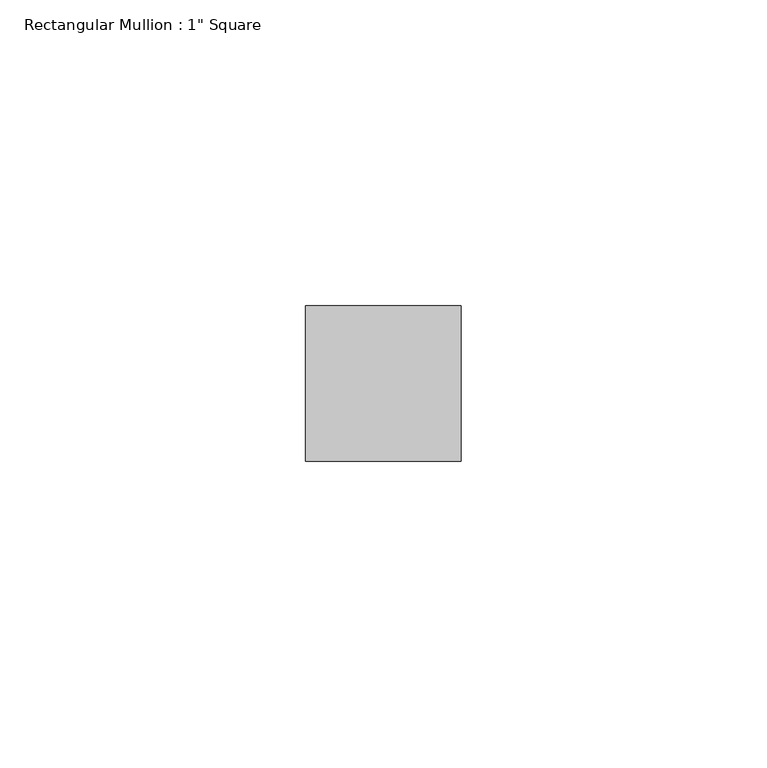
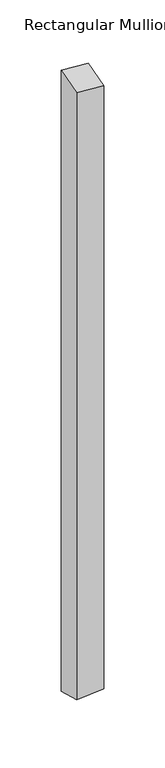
"""IFC4 building model written with IfcOpenShell, lengths in millimetres: member geometry."""

from ifc_helpers import new_model, si_unit, origin, place, context, project, spatial, faceted_brep, source, transform, mapped, element, save


def member_4a9ed0f7(model_context):
    return source(origin(), model_context, "Body", "Brep", [
        faceted_brep([(-25.4, 12.7, 5.5207879), (0.0, 12.7, 3.5791056), (0.0, 12.7, -613.1791056), (-25.4, 12.7, -615.1207879), (-25.4, -12.7, -1.6374233), (-25.4, -12.7, -607.9625767), (0.0, -12.7, -3.5791056), (0.0, -12.7, -606.0208944)], [[[0, 1, 2, 3]], [[4, 0, 3, 5]], [[6, 4, 5, 7]], [[1, 6, 7, 2]], [[1, 0, 4, 6]], [[2, 7, 5, 3]]]),
    ])


if __name__ == "__main__":
    model = new_model("IFC4")
    model_context = context("Model", 3, world=origin())
    ifc_project = project(units=[si_unit("LENGTHUNIT", "METRE", prefix="MILLI")], contexts=[model_context])
    site = spatial("IfcSite", under=ifc_project)
    building = spatial("IfcBuilding", under=site)
    placement = place(None, origin())
    member_shape = member_4a9ed0f7(model_context)
    element("IfcMember", 1, ObjectType="Rectangular Mullion : 1\" Square", at=placement, inside=building, context=model_context, shape_type="MappedRepresentation", body=[
        mapped(member_shape, transform((0.0, 0.0, 0.0), x_axis=(1.0, 0.0, 0.0), y_axis=(0.0, 1.0, 0.0), z_axis=(0.0, 0.0, 1.0))),
    ])
    save(model, "model.ifc")
